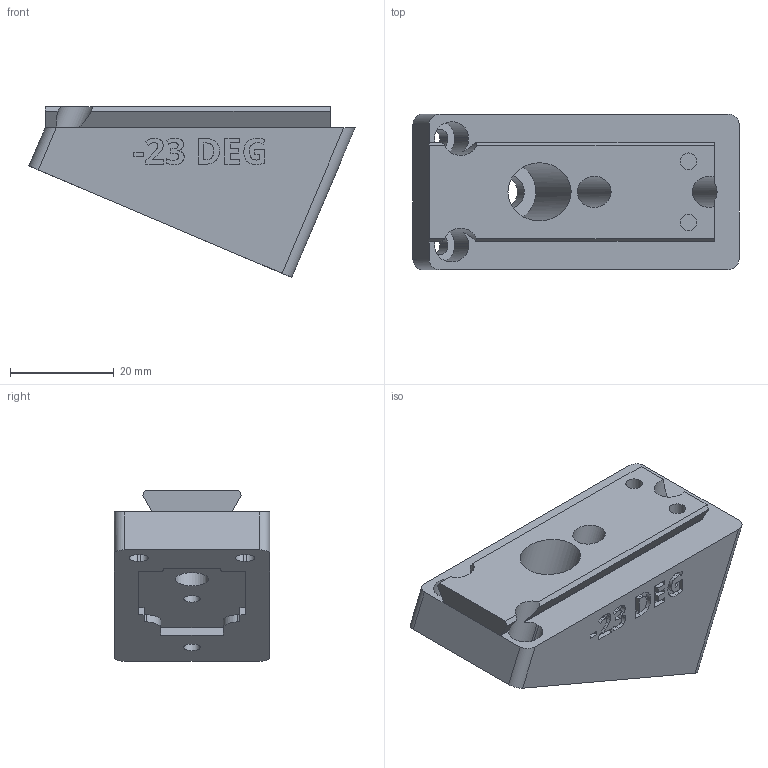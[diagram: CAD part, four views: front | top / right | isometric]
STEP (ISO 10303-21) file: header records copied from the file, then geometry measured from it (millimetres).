
FILE_DESCRIPTION(/* description */ ('STEP AP242 Edition 2','CAx-IF Rec.Pracs.---Representation and Presentation of Product Manufacturing Information (PMI)---4.0---2014-10-13','CAx-IF Rec.Pracs.---3D Tessellated Geometry---0.4---2014-09-14','2;1','CAx-IF Rec.Pracs.---User Defined Attributes---1.5---2016-08-15'),/* implementation_level */ '2;1');
FILE_NAME(/* name */ 'Camera Wedges - CAMERA MOUNTING WEDGE, NEG, -23 DEG',/* time_stamp */ '2026-08-11T00:07:02Z',/* author */ (''),/* organization */ (''),/* preprocessor_version */ 'ST-DEVELOPER v20',/* originating_system */ 'ONSHAPE BY PTC INC, 1.219',/* authorisation */ ' ');
FILE_SCHEMA (('AP242_MANAGED_MODEL_BASED_3D_ENGINEERING_MIM_LF { 1 0 10303 442 3 1 4 }'));
Length unit declared in the file: metre
Products named in the file (1): CAMERA MOUNTING WEDGE, NEG, -23 DEG
Bounding box: 62.86 x 30 x 32.91 mm (x, y, z)
Volume: 31665.6 mm3; surface area: 9700.7 mm2
Topology: 1 solids, 1 shells, 288 faces, 799 edges, 532 vertices
Faces by surface type: plane 150, bspline 80, cylinder 58
Full cylindrical faces by diameter (mm): 3.2 x4, 6 x2, 6.4 x1, 11.2 x1
Entity records: 9451 total; most frequent: CARTESIAN_POINT 2490, ORIENTED_EDGE 1580, DIRECTION 1179, EDGE_CURVE 790, VERTEX_POINT 531, LINE 499, VECTOR 499, AXIS2_PLACEMENT_3D 340
